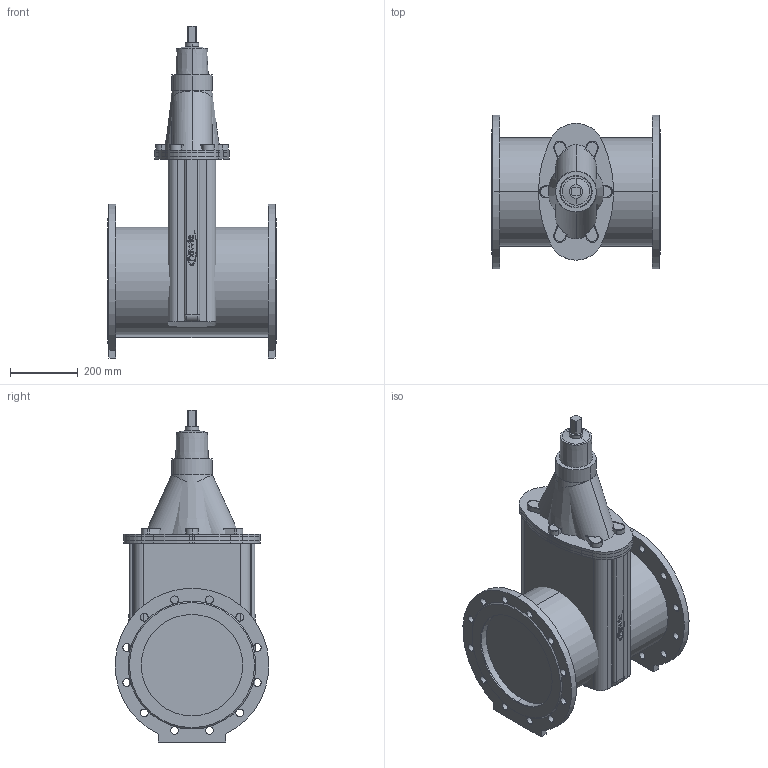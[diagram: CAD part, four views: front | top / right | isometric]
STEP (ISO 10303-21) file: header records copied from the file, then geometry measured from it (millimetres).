
FILE_DESCRIPTION(('STEP AP214'),'1');
FILE_NAME('S:/EK/USER/CAT6/3DHomepage/4700E2/4700E2-PN10-DN300.STP','2012-04-23T14:40:38',(' '),(' '),'Spatial InterOp 3D',' ',' ');
FILE_SCHEMA(('automotive_design'));
Length unit declared in the file: millimetre
Products named in the file (50): 3D-Objekt
Bounding box: 500 x 454.19 x 982.5 mm (x, y, z)
Volume: 74055008.5 mm3; surface area: 2922935.3 mm2
Topology: 50 solids, 50 shells, 504 faces, 1206 edges, 804 vertices
Faces by surface type: plane 246, cylinder 234, cone 10, bspline 8, torus 6
Entity records: 20220 total; most frequent: DIRECTION 2820, CARTESIAN_POINT 2700, ORIENTED_EDGE 2412, EDGE_CURVE 1206, AXIS2_PLACEMENT_3D 1068, VERTEX_POINT 804, LINE 684, VECTOR 684
